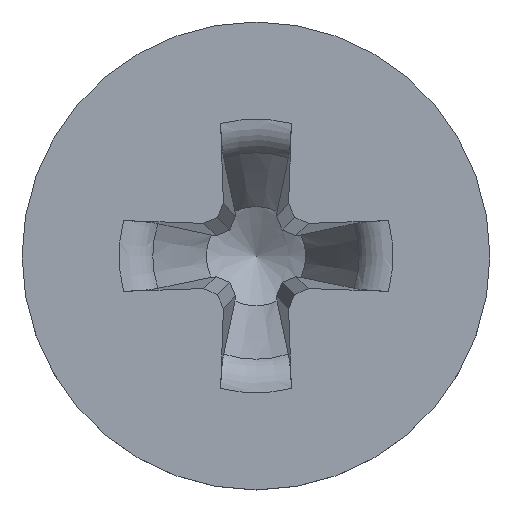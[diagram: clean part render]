
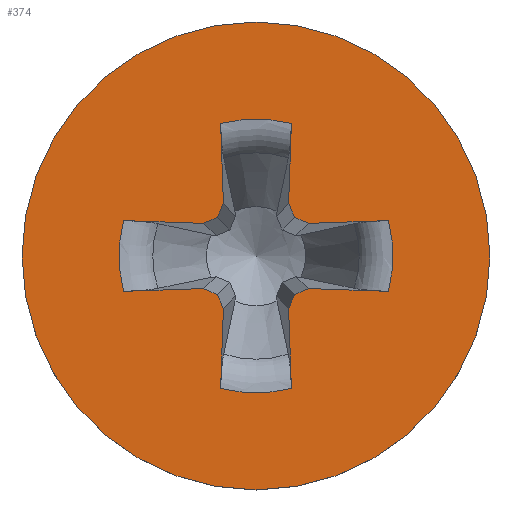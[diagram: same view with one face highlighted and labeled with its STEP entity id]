
A CAD part, top view. The second image highlights one B-rep face of the part: STEP entity #374.
In plain terms, the highlighted planar face has unit normal (0, 0, 1).
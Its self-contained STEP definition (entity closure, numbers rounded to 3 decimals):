
#117=LINE('',#4124,#222);
#118=LINE('',#4129,#223);
#119=LINE('',#4131,#224);
#120=LINE('',#4133,#225);
#121=LINE('',#4135,#226);
#122=LINE('',#4139,#227);
#123=LINE('',#4141,#228);
#124=LINE('',#4143,#229);
#125=LINE('',#4145,#230);
#126=LINE('',#4149,#231);
#127=LINE('',#4151,#232);
#128=LINE('',#4153,#233);
#129=LINE('',#4155,#234);
#130=LINE('',#4159,#235);
#131=LINE('',#4161,#236);
#132=LINE('',#4163,#237);
#222=VECTOR('',#1951,1.);
#223=VECTOR('',#1954,1.);
#224=VECTOR('',#1955,1.);
#225=VECTOR('',#1956,1.);
#226=VECTOR('',#1957,1.);
#227=VECTOR('',#1960,1.);
#228=VECTOR('',#1961,1.);
#229=VECTOR('',#1962,1.);
#230=VECTOR('',#1963,1.);
#231=VECTOR('',#1966,1.);
#232=VECTOR('',#1967,1.);
#233=VECTOR('',#1968,1.);
#234=VECTOR('',#1969,1.);
#235=VECTOR('',#1972,1.);
#236=VECTOR('',#1973,1.);
#237=VECTOR('',#1974,1.);
#328=PLANE('',#1886);
#355=FACE_BOUND('',#611,.T.);
#356=FACE_BOUND('',#612,.T.);
#374=ADVANCED_FACE('',(#355,#356),#328,.F.);
#611=EDGE_LOOP('',(#930,#931,#932,#933,#934,#935,#936,#937,#938,#939,#940,
#941,#942,#943,#944,#945,#946,#947,#948,#949));
#612=EDGE_LOOP('',(#950));
#930=ORIENTED_EDGE('',*,*,#1630,.F.);
#931=ORIENTED_EDGE('',*,*,#1631,.T.);
#932=ORIENTED_EDGE('',*,*,#1632,.F.);
#933=ORIENTED_EDGE('',*,*,#1633,.F.);
#934=ORIENTED_EDGE('',*,*,#1634,.F.);
#935=ORIENTED_EDGE('',*,*,#1635,.F.);
#936=ORIENTED_EDGE('',*,*,#1636,.T.);
#937=ORIENTED_EDGE('',*,*,#1637,.F.);
#938=ORIENTED_EDGE('',*,*,#1638,.F.);
#939=ORIENTED_EDGE('',*,*,#1639,.F.);
#940=ORIENTED_EDGE('',*,*,#1640,.F.);
#941=ORIENTED_EDGE('',*,*,#1641,.T.);
#942=ORIENTED_EDGE('',*,*,#1642,.F.);
#943=ORIENTED_EDGE('',*,*,#1643,.F.);
#944=ORIENTED_EDGE('',*,*,#1644,.F.);
#945=ORIENTED_EDGE('',*,*,#1645,.F.);
#946=ORIENTED_EDGE('',*,*,#1646,.T.);
#947=ORIENTED_EDGE('',*,*,#1647,.F.);
#948=ORIENTED_EDGE('',*,*,#1648,.F.);
#949=ORIENTED_EDGE('',*,*,#1649,.F.);
#950=ORIENTED_EDGE('',*,*,#1650,.F.);
#1463=VERTEX_POINT('',#4125);
#1464=VERTEX_POINT('',#4126);
#1465=VERTEX_POINT('',#4128);
#1466=VERTEX_POINT('',#4130);
#1467=VERTEX_POINT('',#4132);
#1468=VERTEX_POINT('',#4134);
#1469=VERTEX_POINT('',#4136);
#1470=VERTEX_POINT('',#4138);
#1471=VERTEX_POINT('',#4140);
#1472=VERTEX_POINT('',#4142);
#1473=VERTEX_POINT('',#4144);
#1474=VERTEX_POINT('',#4146);
#1475=VERTEX_POINT('',#4148);
#1476=VERTEX_POINT('',#4150);
#1477=VERTEX_POINT('',#4152);
#1478=VERTEX_POINT('',#4154);
#1479=VERTEX_POINT('',#4156);
#1480=VERTEX_POINT('',#4158);
#1481=VERTEX_POINT('',#4160);
#1482=VERTEX_POINT('',#4162);
#1483=VERTEX_POINT('',#4165);
#1630=EDGE_CURVE('',#1463,#1464,#117,.T.);
#1631=EDGE_CURVE('',#1463,#1465,#1853,.T.);
#1632=EDGE_CURVE('',#1466,#1465,#118,.T.);
#1633=EDGE_CURVE('',#1467,#1466,#119,.T.);
#1634=EDGE_CURVE('',#1468,#1467,#120,.T.);
#1635=EDGE_CURVE('',#1469,#1468,#121,.T.);
#1636=EDGE_CURVE('',#1469,#1470,#1854,.T.);
#1637=EDGE_CURVE('',#1471,#1470,#122,.T.);
#1638=EDGE_CURVE('',#1472,#1471,#123,.T.);
#1639=EDGE_CURVE('',#1473,#1472,#124,.T.);
#1640=EDGE_CURVE('',#1474,#1473,#125,.T.);
#1641=EDGE_CURVE('',#1474,#1475,#1855,.T.);
#1642=EDGE_CURVE('',#1476,#1475,#126,.T.);
#1643=EDGE_CURVE('',#1477,#1476,#127,.T.);
#1644=EDGE_CURVE('',#1478,#1477,#128,.T.);
#1645=EDGE_CURVE('',#1479,#1478,#129,.T.);
#1646=EDGE_CURVE('',#1479,#1480,#1856,.T.);
#1647=EDGE_CURVE('',#1481,#1480,#130,.T.);
#1648=EDGE_CURVE('',#1482,#1481,#131,.T.);
#1649=EDGE_CURVE('',#1464,#1482,#132,.T.);
#1650=EDGE_CURVE('',#1483,#1483,#1857,.T.);
#1853=CIRCLE('',#1881,1.758);
#1854=CIRCLE('',#1882,1.758);
#1855=CIRCLE('',#1883,1.758);
#1856=CIRCLE('',#1884,1.758);
#1857=CIRCLE('',#1885,3.);
#1881=AXIS2_PLACEMENT_3D('',#4127,#1952,#1953);
#1882=AXIS2_PLACEMENT_3D('',#4137,#1958,#1959);
#1883=AXIS2_PLACEMENT_3D('',#4147,#1964,#1965);
#1884=AXIS2_PLACEMENT_3D('',#4157,#1970,#1971);
#1885=AXIS2_PLACEMENT_3D('',#4164,#1975,#1976);
#1886=AXIS2_PLACEMENT_3D('',#4166,#1977,#1978);
#1951=DIRECTION('',(-0.999,-0.035,0.));
#1952=DIRECTION('',(0.,0.,-1.));
#1953=DIRECTION('',(-1.,0.,0.));
#1954=DIRECTION('',(0.999,-0.035,0.));
#1955=DIRECTION('',(0.914,0.407,0.));
#1956=DIRECTION('',(0.407,0.914,0.));
#1957=DIRECTION('',(-0.035,0.999,0.));
#1958=DIRECTION('',(0.,0.,-1.));
#1959=DIRECTION('',(-1.,0.,0.));
#1960=DIRECTION('',(-0.035,-0.999,0.));
#1961=DIRECTION('',(0.407,-0.914,0.));
#1962=DIRECTION('',(0.914,-0.407,0.));
#1963=DIRECTION('',(0.999,0.035,0.));
#1964=DIRECTION('',(0.,0.,-1.));
#1965=DIRECTION('',(-1.,0.,0.));
#1966=DIRECTION('',(-0.999,0.035,0.));
#1967=DIRECTION('',(-0.914,-0.407,0.));
#1968=DIRECTION('',(-0.407,-0.914,0.));
#1969=DIRECTION('',(0.035,-0.999,0.));
#1970=DIRECTION('',(0.,0.,-1.));
#1971=DIRECTION('',(-1.,0.,0.));
#1972=DIRECTION('',(0.035,0.999,0.));
#1973=DIRECTION('',(-0.407,0.914,0.));
#1974=DIRECTION('',(-0.914,0.407,0.));
#1975=DIRECTION('',(0.,0.,-1.));
#1976=DIRECTION('',(-1.,0.,0.));
#1977=DIRECTION('',(0.,0.,-1.));
#1978=DIRECTION('',(-1.,0.,0.));
#4124=CARTESIAN_POINT('',(-0.014,0.394,2.375));
#4125=CARTESIAN_POINT('',(1.698,0.454,2.375));
#4126=CARTESIAN_POINT('',(0.673,0.418,2.375));
#4127=CARTESIAN_POINT('',(0.,0.,2.375));
#4128=CARTESIAN_POINT('',(1.698,-0.454,2.375));
#4129=CARTESIAN_POINT('',(-0.014,-0.394,2.375));
#4130=CARTESIAN_POINT('',(0.673,-0.418,2.375));
#4131=CARTESIAN_POINT('',(0.267,-0.599,2.375));
#4132=CARTESIAN_POINT('',(0.496,-0.496,2.375));
#4133=CARTESIAN_POINT('',(0.599,-0.267,2.375));
#4134=CARTESIAN_POINT('',(0.418,-0.673,2.375));
#4135=CARTESIAN_POINT('',(0.394,0.014,2.375));
#4136=CARTESIAN_POINT('',(0.454,-1.698,2.375));
#4137=CARTESIAN_POINT('',(0.,0.,2.375));
#4138=CARTESIAN_POINT('',(-0.454,-1.698,2.375));
#4139=CARTESIAN_POINT('',(-0.394,0.014,2.375));
#4140=CARTESIAN_POINT('',(-0.418,-0.673,2.375));
#4141=CARTESIAN_POINT('',(-0.599,-0.267,2.375));
#4142=CARTESIAN_POINT('',(-0.496,-0.496,2.375));
#4143=CARTESIAN_POINT('',(-0.267,-0.599,2.375));
#4144=CARTESIAN_POINT('',(-0.673,-0.418,2.375));
#4145=CARTESIAN_POINT('',(0.014,-0.394,2.375));
#4146=CARTESIAN_POINT('',(-1.698,-0.454,2.375));
#4147=CARTESIAN_POINT('',(0.,0.,2.375));
#4148=CARTESIAN_POINT('',(-1.698,0.454,2.375));
#4149=CARTESIAN_POINT('',(0.014,0.394,2.375));
#4150=CARTESIAN_POINT('',(-0.673,0.418,2.375));
#4151=CARTESIAN_POINT('',(-0.267,0.599,2.375));
#4152=CARTESIAN_POINT('',(-0.496,0.496,2.375));
#4153=CARTESIAN_POINT('',(-0.599,0.267,2.375));
#4154=CARTESIAN_POINT('',(-0.418,0.673,2.375));
#4155=CARTESIAN_POINT('',(-0.394,-0.014,2.375));
#4156=CARTESIAN_POINT('',(-0.454,1.698,2.375));
#4157=CARTESIAN_POINT('',(0.,0.,2.375));
#4158=CARTESIAN_POINT('',(0.454,1.698,2.375));
#4159=CARTESIAN_POINT('',(0.394,-0.014,2.375));
#4160=CARTESIAN_POINT('',(0.418,0.673,2.375));
#4161=CARTESIAN_POINT('',(0.599,0.267,2.375));
#4162=CARTESIAN_POINT('',(0.496,0.496,2.375));
#4163=CARTESIAN_POINT('',(0.267,0.599,2.375));
#4164=CARTESIAN_POINT('',(0.,0.,2.375));
#4165=CARTESIAN_POINT('',(-3.,0.,2.375));
#4166=CARTESIAN_POINT('',(0.,0.,2.375));
